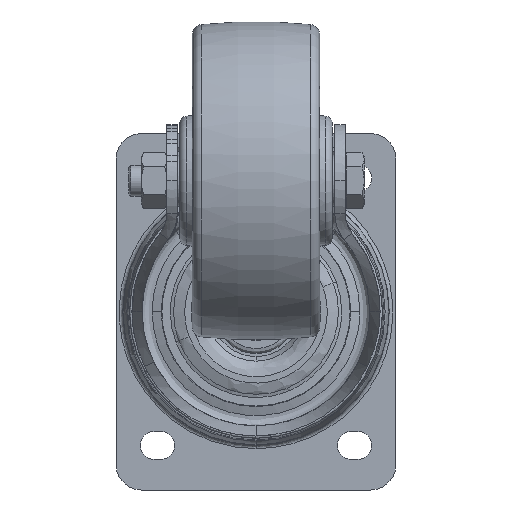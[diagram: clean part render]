
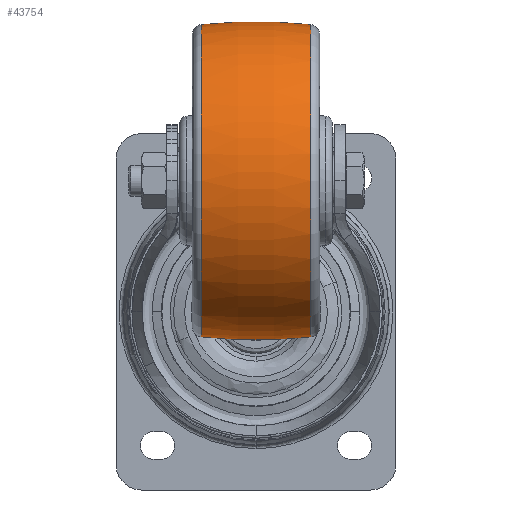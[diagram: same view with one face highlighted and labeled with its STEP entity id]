
A CAD part, front view. The second image highlights one B-rep face of the part: STEP entity #43754.
In plain terms, the highlighted toroidal (fillet/blend) face has major radius 137.5 mm and minor radius 200 mm.
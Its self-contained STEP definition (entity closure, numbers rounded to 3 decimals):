
#3705 = FACE_OUTER_BOUND ( 'NONE', #24514, .T. ) ;
#3706 = TOROIDAL_SURFACE ( 'NONE', #25132, -137.5, 200. ) ;
#14661 = ORIENTED_EDGE ( 'NONE', *, *, #50492, .F. ) ;
#14663 = ORIENTED_EDGE ( 'NONE', *, *, #49887, .T. ) ;
#14665 = ORIENTED_EDGE ( 'NONE', *, *, #50487, .T. ) ;
#14667 = ORIENTED_EDGE ( 'NONE', *, *, #49889, .F. ) ;
#17570 = CARTESIAN_POINT ( 'NONE',  ( 0., 0., -137.5 ) ) ;
#17571 = DIRECTION ( 'NONE',  ( 0., -1., 0. ) ) ;
#17572 = DIRECTION ( 'NONE',  ( 0., 0., -1. ) ) ;
#17576 = CARTESIAN_POINT ( 'NONE',  ( 0., 0., 137.5 ) ) ;
#17577 = DIRECTION ( 'NONE',  ( 0., 1., 0. ) ) ;
#17578 = DIRECTION ( 'NONE',  ( 0., 0., 1. ) ) ;
#18822 = CIRCLE ( 'NONE', #25873, 200. ) ;
#18832 = CIRCLE ( 'NONE', #25875, 200. ) ;
#23077 = CARTESIAN_POINT ( 'NONE',  ( 21.429, 0., 0. ) ) ;
#23078 = DIRECTION ( 'NONE',  ( -1., 0., 0. ) ) ;
#23079 = DIRECTION ( 'NONE',  ( 0., 0., 1. ) ) ;
#23083 = CARTESIAN_POINT ( 'NONE',  ( -21.429, 0., 0. ) ) ;
#23085 = DIRECTION ( 'NONE',  ( -1., 0., 0. ) ) ;
#23086 = DIRECTION ( 'NONE',  ( 0., 0., 1. ) ) ;
#23483 = CIRCLE ( 'NONE', #25811, 61.349 ) ;
#23484 = CIRCLE ( 'NONE', #25812, 61.349 ) ;
#24514 = EDGE_LOOP ( 'NONE', ( #14661, #14663, #14665, #14667 ) ) ;
#25132 = AXIS2_PLACEMENT_3D ( 'NONE', #29331, #29352, #29354 ) ;
#25811 = AXIS2_PLACEMENT_3D ( 'NONE', #23077, #23078, #23079 ) ;
#25812 = AXIS2_PLACEMENT_3D ( 'NONE', #23083, #23085, #23086 ) ;
#25873 = AXIS2_PLACEMENT_3D ( 'NONE', #17570, #17571, #17572 ) ;
#25875 = AXIS2_PLACEMENT_3D ( 'NONE', #17576, #17577, #17578 ) ;
#29056 = VERTEX_POINT ( 'NONE', #38959 ) ;
#29059 = VERTEX_POINT ( 'NONE', #38961 ) ;
#29062 = VERTEX_POINT ( 'NONE', #38963 ) ;
#29064 = VERTEX_POINT ( 'NONE', #38965 ) ;
#29331 = CARTESIAN_POINT ( 'NONE',  ( 0., 0., 0. ) ) ;
#29352 = DIRECTION ( 'NONE',  ( -1., 0., 0. ) ) ;
#29354 = DIRECTION ( 'NONE',  ( 0., 0., 1. ) ) ;
#38959 = CARTESIAN_POINT ( 'NONE',  ( -21.429, 0., 61.349 ) ) ;
#38961 = CARTESIAN_POINT ( 'NONE',  ( -21.429, 0., -61.349 ) ) ;
#38963 = CARTESIAN_POINT ( 'NONE',  ( 21.429, 0., -61.349 ) ) ;
#38965 = CARTESIAN_POINT ( 'NONE',  ( 21.429, 0., 61.349 ) ) ;
#43754 = ADVANCED_FACE ( 'NONE', ( #3705 ), #3706, .T. ) ;
#49887 = EDGE_CURVE ( 'NONE', #29062, #29064, #23483, .T. ) ;
#49889 = EDGE_CURVE ( 'NONE', #29059, #29056, #23484, .T. ) ;
#50487 = EDGE_CURVE ( 'NONE', #29064, #29056, #18822, .T. ) ;
#50492 = EDGE_CURVE ( 'NONE', #29062, #29059, #18832, .T. ) ;
